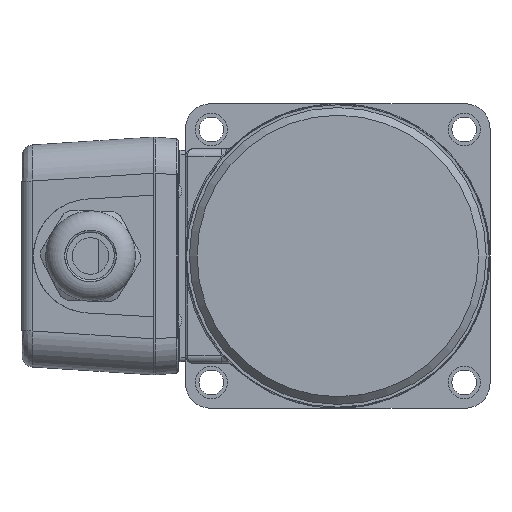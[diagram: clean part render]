
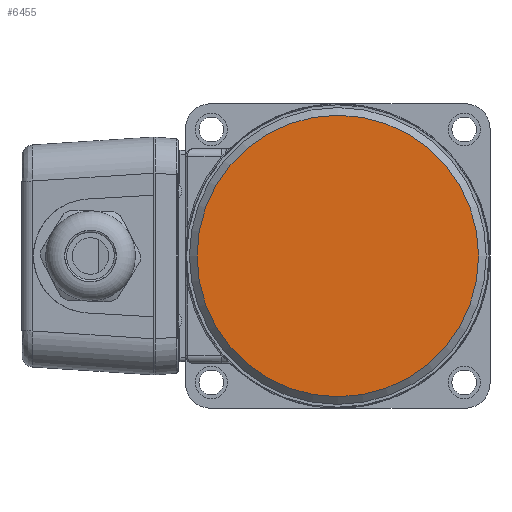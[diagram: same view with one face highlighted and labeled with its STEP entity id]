
A CAD part, left-side view. The second image highlights one B-rep face of the part: STEP entity #6455.
In plain terms, the highlighted planar face has unit normal (-1, 0, 0).
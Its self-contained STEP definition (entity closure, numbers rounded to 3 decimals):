
#823=CIRCLE('',#7031,37.);
#1194=FACE_OUTER_BOUND('',#1578,.T.);
#1578=EDGE_LOOP('',(#5613));
#3137=VERTEX_POINT('',#12779);
#3980=EDGE_CURVE('',#3137,#3137,#823,.T.);
#5613=ORIENTED_EDGE('',*,*,#3980,.F.);
#6133=PLANE('',#7030);
#6455=ADVANCED_FACE('',(#1194),#6133,.T.);
#7030=AXIS2_PLACEMENT_3D('',#12778,#8534,#8535);
#7031=AXIS2_PLACEMENT_3D('',#12780,#8536,#8537);
#8534=DIRECTION('center_axis',(-1.,0.,0.));
#8535=DIRECTION('ref_axis',(0.,0.,1.));
#8536=DIRECTION('center_axis',(1.,0.,0.));
#8537=DIRECTION('ref_axis',(0.,1.,0.));
#12778=CARTESIAN_POINT('Origin',(0.,18.5,0.));
#12779=CARTESIAN_POINT('',(0.,-37.,0.));
#12780=CARTESIAN_POINT('Origin',(0.,0.,
0.));
